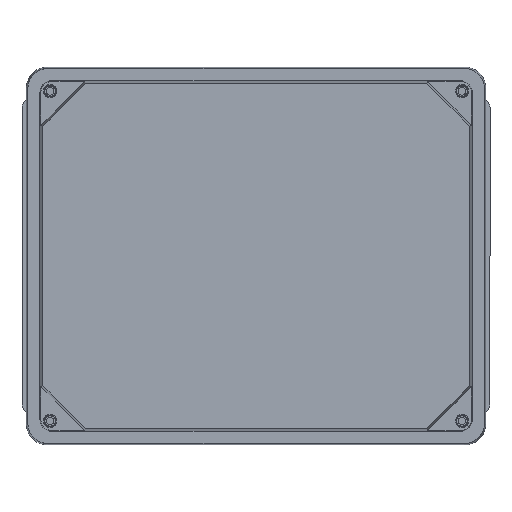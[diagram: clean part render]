
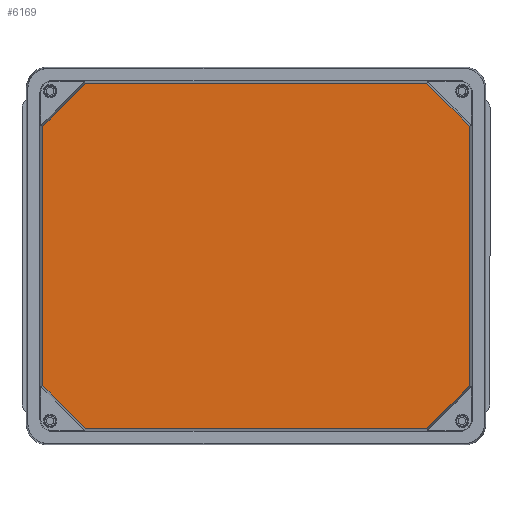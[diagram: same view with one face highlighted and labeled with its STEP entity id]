
A CAD part, front view. The second image highlights one B-rep face of the part: STEP entity #6169.
In plain terms, the highlighted planar face has unit normal (0, -1, 0).
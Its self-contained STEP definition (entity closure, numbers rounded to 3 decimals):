
#140 = LINE ( 'NONE', #7728, #154 ) ;
#147 = LINE ( 'NONE', #7646, #148 ) ;
#148 = VECTOR ( 'NONE', #7649, 1000. ) ;
#154 = VECTOR ( 'NONE', #7492, 1000. ) ;
#1151 = DIRECTION ( 'NONE',  ( 0., 0., 1. ) ) ;
#1152 = DIRECTION ( 'NONE',  ( 0., 1., 0. ) ) ;
#1158 = PLANE ( 'NONE',  #3917 ) ;
#1159 = CARTESIAN_POINT ( 'NONE',  ( 0., -59.792, -217.255 ) ) ;
#1482 = LINE ( 'NONE', #9125, #1485 ) ;
#1485 = VECTOR ( 'NONE', #9124, 1000. ) ;
#1491 = LINE ( 'NONE', #9117, #1492 ) ;
#1492 = VECTOR ( 'NONE', #9116, 1000. ) ;
#3369 = CARTESIAN_POINT ( 'NONE',  ( 106.535, -59.792, -107.767 ) ) ;
#3402 = CARTESIAN_POINT ( 'NONE',  ( 133.167, -59.792, 81.135 ) ) ;
#3406 = CARTESIAN_POINT ( 'NONE',  ( 106.535, -59.792, 107.767 ) ) ;
#3409 = CARTESIAN_POINT ( 'NONE',  ( -106.535, -59.792, -107.767 ) ) ;
#3455 = CARTESIAN_POINT ( 'NONE',  ( -133.167, -59.792, -81.135 ) ) ;
#3492 = CARTESIAN_POINT ( 'NONE',  ( -133.167, -59.792, 81.135 ) ) ;
#3545 = CARTESIAN_POINT ( 'NONE',  ( 133.167, -59.792, -81.135 ) ) ;
#3758 = CARTESIAN_POINT ( 'NONE',  ( -106.535, -59.792, 107.767 ) ) ;
#3780 = CARTESIAN_POINT ( 'NONE',  ( 106.535, -59.792, 107.767 ) ) ;
#3782 = DIRECTION ( 'NONE',  ( 0.707, 0., -0.707 ) ) ;
#3870 = DIRECTION ( 'NONE',  ( 1., 0., 0. ) ) ;
#3871 = CARTESIAN_POINT ( 'NONE',  ( 0., -59.792, 107.767 ) ) ;
#3917 = AXIS2_PLACEMENT_3D ( 'NONE', #1159, #1152, #1151 ) ;
#4747 = ORIENTED_EDGE ( 'NONE', *, *, #9529, .F. ) ;
#4748 = ORIENTED_EDGE ( 'NONE', *, *, #9534, .F. ) ;
#4749 = ORIENTED_EDGE ( 'NONE', *, *, #9533, .F. ) ;
#4750 = ORIENTED_EDGE ( 'NONE', *, *, #8227, .F. ) ;
#4751 = ORIENTED_EDGE ( 'NONE', *, *, #8230, .F. ) ;
#4752 = ORIENTED_EDGE ( 'NONE', *, *, #9318, .F. ) ;
#4753 = ORIENTED_EDGE ( 'NONE', *, *, #9322, .F. ) ;
#4754 = ORIENTED_EDGE ( 'NONE', *, *, #9530, .F. ) ;
#5082 = LINE ( 'NONE', #9260, #5083 ) ;
#5083 = VECTOR ( 'NONE', #8888, 1000. ) ;
#5084 = LINE ( 'NONE', #8962, #5085 ) ;
#5085 = VECTOR ( 'NONE', #8961, 1000. ) ;
#5591 = FACE_OUTER_BOUND ( 'NONE', #8393, .T. ) ;
#6169 = ADVANCED_FACE ( 'NONE', ( #5591 ), #1158, .F. ) ;
#6356 = LINE ( 'NONE', #3780, #6357 ) ;
#6357 = VECTOR ( 'NONE', #3782, 1000. ) ;
#6360 = LINE ( 'NONE', #3871, #6361 ) ;
#6361 = VECTOR ( 'NONE', #3870, 1000. ) ;
#6459 = VERTEX_POINT ( 'NONE', #3545 ) ;
#6634 = VERTEX_POINT ( 'NONE', #3492 ) ;
#6718 = VERTEX_POINT ( 'NONE', #3455 ) ;
#6932 = VERTEX_POINT ( 'NONE', #3409 ) ;
#6946 = VERTEX_POINT ( 'NONE', #3406 ) ;
#6958 = VERTEX_POINT ( 'NONE', #3402 ) ;
#7074 = VERTEX_POINT ( 'NONE', #3369 ) ;
#7170 = VERTEX_POINT ( 'NONE', #3758 ) ;
#7492 = DIRECTION ( 'NONE',  ( 0., 0., 1. ) ) ;
#7646 = CARTESIAN_POINT ( 'NONE',  ( -133.167, -59.792, 81.135 ) ) ;
#7649 = DIRECTION ( 'NONE',  ( 0.707, 0., 0.707 ) ) ;
#7728 = CARTESIAN_POINT ( 'NONE',  ( -133.167, -59.792, -217.255 ) ) ;
#8227 = EDGE_CURVE ( 'NONE', #6946, #6958, #6356, .T. ) ;
#8230 = EDGE_CURVE ( 'NONE', #7170, #6946, #6360, .T. ) ;
#8393 = EDGE_LOOP ( 'NONE', ( #4747, #4748, #4749, #4750, #4751, #4752, #4753, #4754 ) ) ;
#8888 = DIRECTION ( 'NONE',  ( 0., 0., -1. ) ) ;
#8961 = DIRECTION ( 'NONE',  ( -0.707, 0., -0.707 ) ) ;
#8962 = CARTESIAN_POINT ( 'NONE',  ( 133.167, -59.792, -81.135 ) ) ;
#9116 = DIRECTION ( 'NONE',  ( -0.707, 0., 0.707 ) ) ;
#9117 = CARTESIAN_POINT ( 'NONE',  ( -106.535, -59.792, -107.767 ) ) ;
#9124 = DIRECTION ( 'NONE',  ( -1., 0., 0. ) ) ;
#9125 = CARTESIAN_POINT ( 'NONE',  ( 0., -59.792, -107.767 ) ) ;
#9260 = CARTESIAN_POINT ( 'NONE',  ( 133.167, -59.792, -217.255 ) ) ;
#9318 = EDGE_CURVE ( 'NONE', #6634, #7170, #147, .T. ) ;
#9322 = EDGE_CURVE ( 'NONE', #6718, #6634, #140, .T. ) ;
#9529 = EDGE_CURVE ( 'NONE', #7074, #6932, #1482, .T. ) ;
#9530 = EDGE_CURVE ( 'NONE', #6932, #6718, #1491, .T. ) ;
#9533 = EDGE_CURVE ( 'NONE', #6958, #6459, #5082, .T. ) ;
#9534 = EDGE_CURVE ( 'NONE', #6459, #7074, #5084, .T. ) ;
